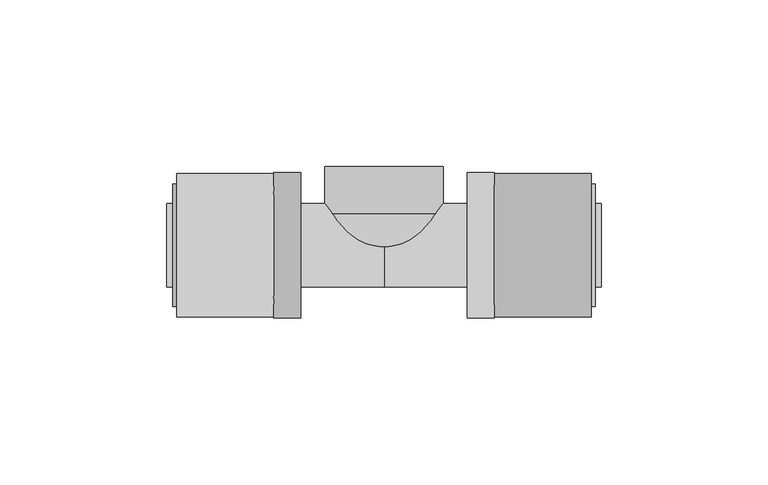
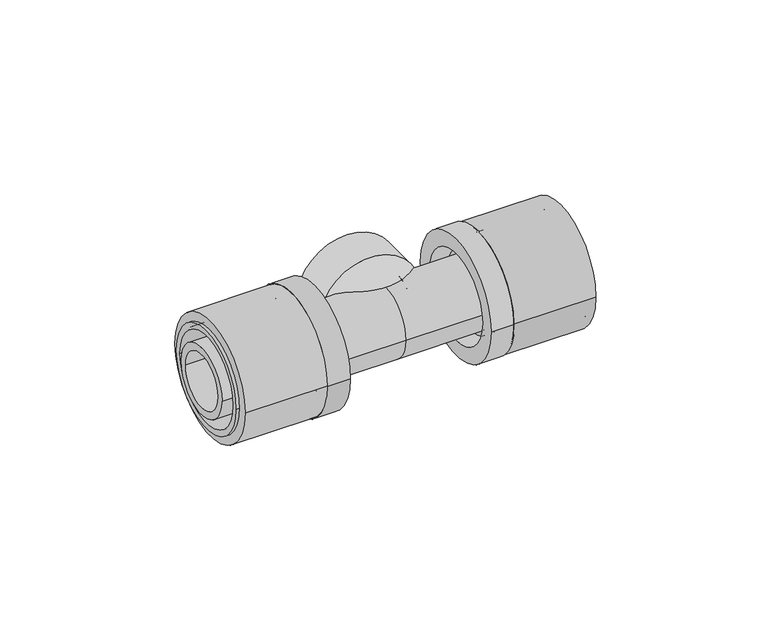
"""IFC4 building model written with IfcOpenShell, lengths in millimetres: pipe fitting geometry, FASTLOC_T-piece internal thread LX : FSL T thread LX CZ."""

from ifc_helpers import new_model, si_unit, point, frame, origin, origin_2d, place, context, project, spatial, polyline, circle_curve, ellipse_curve, trimmed, segment, composite_curve, outline, extrude, source, transform, mapped, element, save
from ifc_brep_helpers import plane_surface, cylinder_surface, revolved_surface, advanced_brep


def pipe_fitting_91740978(model_context):
    return source(origin(), model_context, "Body", "SolidModel", [
        extrude(outline(composite_curve([segment(trimmed(circle_curve(origin_2d(), 21.5), [point((-21.5, 0.0))], [point((21.5, 0.0))], False, "CARTESIAN"), True, "CONTINUOUS"), segment(trimmed(circle_curve(origin_2d(), 21.5), [point((21.5, 0.0))], [point((-21.5, 0.0))], False, "CARTESIAN"), True, "CONTINUOUS")], self_intersect=False), holes=[composite_curve([segment(trimmed(circle_curve(origin_2d(), 16.85), [point((-16.85, 0.0))], [point((16.85, 0.0))], True, "CARTESIAN"), True, "CONTINUOUS"), segment(trimmed(circle_curve(origin_2d(), 16.85), [point((16.85, 0.0))], [point((-16.85, 0.0))], True, "CARTESIAN"), True, "CONTINUOUS")], self_intersect=False)]), frame((33.0, 0.0, 0.0), z_axis=(1.0, 0.0, 0.0), x_axis=(0.0, 1.0, 0.0)), (0.0, 0.0, 1.0), 29.0),
        advanced_brep(
        [(33.0, 21.8, 0.0), (33.0, -21.8, 0.0), (25.0, -21.8, 0.0), (25.0, 21.8, 0.0), (63.3, 18.35, 0.0), (63.3, -18.35, 0.0), (33.0, -18.35, 0.0), (33.0, 18.35, 0.0), (25.0, 16.2, 0.0), (25.0, -16.2, 0.0), (63.3, -16.2, 0.0), (63.3, 16.2, 0.0)],
        [
            (0, 1, circle_curve(frame((33.0, 0.0, 0.0), z_axis=(-1.0, 0.0, 0.0), x_axis=(0.0, -1.0, 0.0)), 21.8)),
            (1, 2),
            (2, 3, circle_curve(frame((25.0, 0.0, 0.0), z_axis=(1.0, 0.0, 0.0), x_axis=(0.0, -1.0, 0.0)), 21.8)),
            (3, 0),
            (4, 5, circle_curve(frame((63.3, 0.0, 0.0), z_axis=(-1.0, 0.0, 0.0), x_axis=(0.0, -1.0, 0.0)), 18.35)),
            (5, 6),
            (6, 7, circle_curve(frame((33.0, 0.0, 0.0), z_axis=(1.0, 0.0, 0.0), x_axis=(0.0, -1.0, 0.0)), 18.35)),
            (7, 4),
            (8, 9, circle_curve(frame((25.0, 0.0, 0.0), z_axis=(-1.0, 0.0, 0.0), x_axis=(0.0, -1.0, 0.0)), 16.2)),
            (9, 10),
            (10, 11, circle_curve(frame((63.3, 0.0, 0.0), z_axis=(1.0, 0.0, 0.0), x_axis=(0.0, -1.0, 0.0)), 16.2)),
            (11, 8),
            (1, 0, circle_curve(frame((33.0, 0.0, 0.0), z_axis=(-1.0, 0.0, 0.0), x_axis=(0.0, 1.0, 0.0)), 21.8)),
            (3, 2, circle_curve(frame((25.0, 0.0, 0.0), z_axis=(1.0, 0.0, 0.0), x_axis=(0.0, 1.0, 0.0)), 21.8)),
            (6, 7, circle_curve(frame((33.0, 0.0, 0.0), z_axis=(-1.0, 0.0, 0.0), x_axis=(0.0, 1.0, 0.0)), 18.35)),
            (5, 4, circle_curve(frame((63.3, 0.0, 0.0), z_axis=(-1.0, 0.0, 0.0), x_axis=(0.0, 1.0, 0.0)), 18.35)),
            (10, 11, circle_curve(frame((63.3, 0.0, 0.0), z_axis=(-1.0, 0.0, 0.0), x_axis=(0.0, 1.0, 0.0)), 16.2)),
            (9, 8, circle_curve(frame((25.0, 0.0, 0.0), z_axis=(-1.0, 0.0, 0.0), x_axis=(0.0, 1.0, 0.0)), 16.2)),
        ],
        [
            cylinder_surface(frame((25.0, 0.0, 0.0), z_axis=(1.0, 0.0, 0.0), x_axis=(0.0, -1.0, 0.0)), 21.8),
            cylinder_surface(frame((25.0, 0.0, 0.0), z_axis=(1.0, 0.0, 0.0), x_axis=(0.0, -1.0, 0.0)), 18.35),
            revolved_surface(polyline([(63.3, -16.2, 0.0), (25.0, -16.2, 0.0)]), (25.0, 0.0, 0.0), (1.0, 0.0, 0.0)),
            cylinder_surface(frame((25.0, 0.0, 0.0), z_axis=(1.0, 0.0, 0.0), x_axis=(0.0, 1.0, 0.0)), 21.8),
            plane_surface(frame((33.0, 0.0, 0.0), z_axis=(1.0, 0.0, 0.0), x_axis=(0.0, 1.0, 0.0))),
            cylinder_surface(frame((25.0, 0.0, 0.0), z_axis=(1.0, 0.0, 0.0), x_axis=(0.0, 1.0, 0.0)), 18.35),
            plane_surface(frame((63.3, 0.0, 0.0), z_axis=(1.0, 0.0, 0.0), x_axis=(0.0, 1.0, 0.0))),
            revolved_surface(polyline([(63.3, 16.2, 0.0), (25.0, 16.2, 0.0)]), (25.0, 0.0, 0.0), (1.0, 0.0, 0.0)),
            plane_surface(frame((25.0, 0.0, 0.0), z_axis=(-1.0, 0.0, 0.0), x_axis=(0.0, 1.0, 0.0))),
        ],
        [
            (0, [[1, 2, 3, 4]]),
            (1, [[5, 6, 7, 8]]),
            (2, [[9, 10, 11, 12]]),
            (3, [[13, -4, 14, -2]]),
            (4, [[-13, -1], [15, -7]]),
            (5, [[16, -8, -15, -6]]),
            (6, [[-16, -5], [17, -11]]),
            (7, [[18, -12, -17, -10]]),
            (8, [[-14, -3], [-18, -9]]),
        ],
    ),
        extrude(outline(composite_curve([segment(trimmed(circle_curve(origin_2d(), 21.5), [point((21.5, 0.0))], [point((-21.5, 0.0))], False, "CARTESIAN"), True, "CONTINUOUS"), segment(trimmed(circle_curve(origin_2d(), 21.5), [point((-21.5, 0.0))], [point((21.5, 0.0))], False, "CARTESIAN"), True, "CONTINUOUS")], self_intersect=False), holes=[composite_curve([segment(trimmed(circle_curve(origin_2d(), 16.85), [point((16.85, 0.0))], [point((-16.85, 0.0))], True, "CARTESIAN"), True, "CONTINUOUS"), segment(trimmed(circle_curve(origin_2d(), 16.85), [point((-16.85, 0.0))], [point((16.85, 0.0))], True, "CARTESIAN"), True, "CONTINUOUS")], self_intersect=False)]), frame((-62.0, 0.0, 0.0), z_axis=(1.0, 0.0, 0.0), x_axis=(0.0, 1.0, 0.0)), (0.0, 0.0, 1.0), 29.0),
        advanced_brep(
        [(-33.0, -21.8, 0.0), (-33.0, 21.8, 0.0), (-25.0, 21.8, 0.0), (-25.0, -21.8, 0.0), (-63.3, -18.35, 0.0), (-63.3, 18.35, 0.0), (-33.0, 18.35, 0.0), (-33.0, -18.35, 0.0), (-25.0, -16.2, 0.0), (-25.0, 16.2, 0.0), (-63.3, 16.2, 0.0), (-63.3, -16.2, 0.0)],
        [
            (0, 1, circle_curve(frame((-33.0, 0.0, 0.0), z_axis=(1.0, 0.0, 0.0), x_axis=(0.0, 1.0, 0.0)), 21.8)),
            (1, 2),
            (2, 3, circle_curve(frame((-25.0, 0.0, 0.0), z_axis=(-1.0, 0.0, 0.0), x_axis=(0.0, 1.0, 0.0)), 21.8)),
            (3, 0),
            (4, 5, circle_curve(frame((-63.3, 0.0, 0.0), z_axis=(1.0, 0.0, 0.0), x_axis=(0.0, 1.0, 0.0)), 18.35)),
            (5, 6),
            (6, 7, circle_curve(frame((-33.0, 0.0, 0.0), z_axis=(-1.0, 0.0, 0.0), x_axis=(0.0, 1.0, 0.0)), 18.35)),
            (7, 4),
            (8, 9, circle_curve(frame((-25.0, 0.0, 0.0), z_axis=(1.0, 0.0, 0.0), x_axis=(0.0, 1.0, 0.0)), 16.2)),
            (9, 10),
            (10, 11, circle_curve(frame((-63.3, 0.0, 0.0), z_axis=(-1.0, 0.0, 0.0), x_axis=(0.0, 1.0, 0.0)), 16.2)),
            (11, 8),
            (1, 0, circle_curve(frame((-33.0, 0.0, 0.0), z_axis=(1.0, 0.0, 0.0), x_axis=(0.0, -1.0, 0.0)), 21.8)),
            (3, 2, circle_curve(frame((-25.0, 0.0, 0.0), z_axis=(-1.0, 0.0, 0.0), x_axis=(0.0, -1.0, 0.0)), 21.8)),
            (6, 7, circle_curve(frame((-33.0, 0.0, 0.0), z_axis=(1.0, 0.0, 0.0), x_axis=(0.0, -1.0, 0.0)), 18.35)),
            (5, 4, circle_curve(frame((-63.3, 0.0, 0.0), z_axis=(1.0, 0.0, 0.0), x_axis=(0.0, -1.0, 0.0)), 18.35)),
            (10, 11, circle_curve(frame((-63.3, 0.0, 0.0), z_axis=(1.0, 0.0, 0.0), x_axis=(0.0, -1.0, 0.0)), 16.2)),
            (9, 8, circle_curve(frame((-25.0, 0.0, 0.0), z_axis=(1.0, 0.0, 0.0), x_axis=(0.0, -1.0, 0.0)), 16.2)),
        ],
        [
            cylinder_surface(frame((-25.0, 0.0, 0.0), z_axis=(-1.0, 0.0, 0.0), x_axis=(0.0, 1.0, 0.0)), 21.8),
            cylinder_surface(frame((-25.0, 0.0, 0.0), z_axis=(-1.0, 0.0, 0.0), x_axis=(0.0, 1.0, 0.0)), 18.35),
            revolved_surface(polyline([(-63.3, 16.2, 0.0), (-25.0, 16.2, 0.0)]), (-25.0, 0.0, 0.0), (-1.0, 0.0, 0.0)),
            cylinder_surface(frame((-25.0, 0.0, 0.0), z_axis=(-1.0, 0.0, 0.0), x_axis=(0.0, -1.0, 0.0)), 21.8),
            plane_surface(frame((-33.0, 0.0, 0.0), z_axis=(-1.0, 0.0, 0.0), x_axis=(0.0, -1.0, 0.0))),
            cylinder_surface(frame((-25.0, 0.0, 0.0), z_axis=(-1.0, 0.0, 0.0), x_axis=(0.0, -1.0, 0.0)), 18.35),
            plane_surface(frame((-63.3, 0.0, 0.0), z_axis=(-1.0, 0.0, 0.0), x_axis=(0.0, -1.0, 0.0))),
            revolved_surface(polyline([(-63.3, -16.2, 0.0), (-25.0, -16.2, 0.0)]), (-25.0, 0.0, 0.0), (-1.0, 0.0, 0.0)),
            plane_surface(frame((-25.0, 0.0, 0.0), z_axis=(1.0, 0.0, 0.0), x_axis=(0.0, -1.0, 0.0))),
        ],
        [
            (0, [[1, 2, 3, 4]]),
            (1, [[5, 6, 7, 8]]),
            (2, [[9, 10, 11, 12]]),
            (3, [[13, -4, 14, -2]]),
            (4, [[-13, -1], [15, -7]]),
            (5, [[16, -8, -15, -6]]),
            (6, [[-16, -5], [17, -11]]),
            (7, [[18, -12, -17, -10]]),
            (8, [[-14, -3], [-18, -9]]),
        ],
    ),
        advanced_brep(
        [(33.0, 14.1, 0.0), (33.0, -14.1, 0.0), (30.0, -14.1, 0.0), (30.0, 14.1, 0.0), (65.0, 12.5, 0.0), (65.0, -12.5, 0.0), (33.0, -12.5, 0.0), (33.0, 12.5, 0.0), (-65.0, 9.85, 0.0), (-65.0, -9.85, 0.0), (65.0, -9.85, 0.0), (65.0, 9.85, 0.0), (-33.0, 12.5, 0.0), (-33.0, -12.5, 0.0), (-65.0, -12.5, 0.0), (-65.0, 12.5, 0.0), (-30.0, 14.1, 0.0), (-30.0, -14.1, 0.0), (-33.0, -14.1, 0.0), (-33.0, 14.1, 0.0), (0.0, 12.5, 0.0), (0.0, -12.5, 0.0), (-30.0, -12.5, 0.0), (-30.0, 12.5, 0.0), (30.0, 12.5, 0.0), (30.0, -12.5, 0.0)],
        [
            (0, 1, circle_curve(frame((33.0, 0.0, 0.0), z_axis=(-1.0, 0.0, 0.0), x_axis=(0.0, -1.0, 0.0)), 14.1)),
            (1, 2),
            (2, 3, circle_curve(frame((30.0, 0.0, 0.0), z_axis=(1.0, 0.0, 0.0), x_axis=(0.0, -1.0, 0.0)), 14.1)),
            (3, 0),
            (4, 5, circle_curve(frame((65.0, 0.0, 0.0), z_axis=(-1.0, 0.0, 0.0), x_axis=(0.0, -1.0, 0.0)), 12.5)),
            (5, 6),
            (6, 7, circle_curve(frame((33.0, 0.0, 0.0), z_axis=(1.0, 0.0, 0.0), x_axis=(0.0, -1.0, 0.0)), 12.5)),
            (7, 4),
            (8, 9, circle_curve(frame((-65.0, 0.0, 0.0), z_axis=(-1.0, 0.0, 0.0), x_axis=(0.0, -1.0, 0.0)), 9.85)),
            (9, 10),
            (10, 11, circle_curve(frame((65.0, 0.0, 0.0), z_axis=(1.0, 0.0, 0.0), x_axis=(0.0, -1.0, 0.0)), 9.85)),
            (11, 8),
            (12, 13, circle_curve(frame((-33.0, 0.0, 0.0), z_axis=(-1.0, 0.0, 0.0), x_axis=(0.0, -1.0, 0.0)), 12.5)),
            (13, 14),
            (14, 15, circle_curve(frame((-65.0, 0.0, 0.0), z_axis=(1.0, 0.0, 0.0), x_axis=(0.0, -1.0, 0.0)), 12.5)),
            (15, 12),
            (16, 17, circle_curve(frame((-30.0, 0.0, 0.0), z_axis=(-1.0, 0.0, 0.0), x_axis=(0.0, -1.0, 0.0)), 14.1)),
            (17, 18),
            (18, 19, circle_curve(frame((-33.0, 0.0, 0.0), z_axis=(1.0, 0.0, 0.0), x_axis=(0.0, -1.0, 0.0)), 14.1)),
            (19, 16),
            (20, 21, circle_curve(frame((0.0, 0.0, 0.0), z_axis=(-1.0, 0.0, 0.0), x_axis=(0.0, -1.0, 0.0)), 12.5)),
            (21, 22),
            (22, 23, circle_curve(frame((-30.0, 0.0, 0.0), z_axis=(1.0, 0.0, 0.0), x_axis=(0.0, -1.0, 0.0)), 12.5)),
            (23, 20),
            (24, 25, circle_curve(frame((30.0, 0.0, 0.0), z_axis=(-1.0, 0.0, 0.0), x_axis=(0.0, -1.0, 0.0)), 12.5)),
            (25, 21),
            (20, 24),
            (1, 0, circle_curve(frame((33.0, 0.0, 0.0), z_axis=(-1.0, 0.0, 0.0), x_axis=(0.0, 1.0, 0.0)), 14.1)),
            (3, 2, circle_curve(frame((30.0, 0.0, 0.0), z_axis=(1.0, 0.0, 0.0), x_axis=(0.0, 1.0, 0.0)), 14.1)),
            (6, 7, circle_curve(frame((33.0, 0.0, 0.0), z_axis=(-1.0, 0.0, 0.0), x_axis=(0.0, 1.0, 0.0)), 12.5)),
            (5, 4, circle_curve(frame((65.0, 0.0, 0.0), z_axis=(-1.0, 0.0, 0.0), x_axis=(0.0, 1.0, 0.0)), 12.5)),
            (10, 11, circle_curve(frame((65.0, 0.0, 0.0), z_axis=(-1.0, 0.0, 0.0), x_axis=(0.0, 1.0, 0.0)), 9.85)),
            (9, 8, circle_curve(frame((-65.0, 0.0, 0.0), z_axis=(-1.0, 0.0, 0.0), x_axis=(0.0, 1.0, 0.0)), 9.85)),
            (14, 15, circle_curve(frame((-65.0, 0.0, 0.0), z_axis=(-1.0, 0.0, 0.0), x_axis=(0.0, 1.0, 0.0)), 12.5)),
            (13, 12, circle_curve(frame((-33.0, 0.0, 0.0), z_axis=(-1.0, 0.0, 0.0), x_axis=(0.0, 1.0, 0.0)), 12.5)),
            (18, 19, circle_curve(frame((-33.0, 0.0, 0.0), z_axis=(-1.0, 0.0, 0.0), x_axis=(0.0, 1.0, 0.0)), 14.1)),
            (17, 16, circle_curve(frame((-30.0, 0.0, 0.0), z_axis=(-1.0, 0.0, 0.0), x_axis=(0.0, 1.0, 0.0)), 14.1)),
            (22, 23, circle_curve(frame((-30.0, 0.0, 0.0), z_axis=(-1.0, 0.0, 0.0), x_axis=(0.0, 1.0, 0.0)), 12.5)),
            (21, 20, circle_curve(frame((0.0, 0.0, 0.0), z_axis=(-1.0, 0.0, 0.0), x_axis=(0.0, 1.0, 0.0)), 12.5)),
            (25, 24, circle_curve(frame((30.0, 0.0, 0.0), z_axis=(-1.0, 0.0, 0.0), x_axis=(0.0, 1.0, 0.0)), 12.5)),
        ],
        [
            cylinder_surface(frame((0.0, 0.0, 0.0), z_axis=(1.0, 0.0, 0.0), x_axis=(0.0, -1.0, 0.0)), 14.1),
            cylinder_surface(frame((0.0, 0.0, 0.0), z_axis=(1.0, 0.0, 0.0), x_axis=(0.0, -1.0, 0.0)), 12.5),
            revolved_surface(polyline([(65.0, -9.85, 0.0), (-65.0, -9.85, 0.0)]), (0.0, 0.0, 0.0), (1.0, 0.0, 0.0)),
            cylinder_surface(frame((0.0, 0.0, 0.0), z_axis=(1.0, 0.0, 0.0), x_axis=(0.0, 1.0, 0.0)), 14.1),
            plane_surface(frame((33.0, 0.0, 0.0), z_axis=(1.0, 0.0, 0.0), x_axis=(0.0, 1.0, 0.0))),
            cylinder_surface(frame((0.0, 0.0, 0.0), z_axis=(1.0, 0.0, 0.0), x_axis=(0.0, 1.0, 0.0)), 12.5),
            plane_surface(frame((65.0, 0.0, 0.0), z_axis=(1.0, 0.0, 0.0), x_axis=(0.0, 1.0, 0.0))),
            revolved_surface(polyline([(65.0, 9.85, 0.0), (-65.0, 9.85, 0.0)]), (0.0, 0.0, 0.0), (1.0, 0.0, 0.0)),
            plane_surface(frame((-65.0, 0.0, 0.0), z_axis=(-1.0, 0.0, 0.0), x_axis=(0.0, 1.0, 0.0))),
            plane_surface(frame((-33.0, 0.0, 0.0), z_axis=(-1.0, 0.0, 0.0), x_axis=(0.0, 1.0, 0.0))),
            plane_surface(frame((-30.0, 0.0, 0.0), z_axis=(1.0, 0.0, 0.0), x_axis=(0.0, 1.0, 0.0))),
            plane_surface(frame((30.0, 0.0, 0.0), z_axis=(-1.0, 0.0, 0.0), x_axis=(0.0, 1.0, 0.0))),
        ],
        [
            (0, [[1, 2, 3, 4]]),
            (1, [[5, 6, 7, 8]]),
            (2, [[9, 10, 11, 12]]),
            (1, [[13, 14, 15, 16]]),
            (0, [[17, 18, 19, 20]]),
            (1, [[21, 22, 23, 24]]),
            (1, [[25, 26, -21, 27]]),
            (3, [[28, -4, 29, -2]]),
            (4, [[-28, -1], [30, -7]]),
            (5, [[31, -8, -30, -6]]),
            (6, [[-31, -5], [32, -11]]),
            (7, [[33, -12, -32, -10]]),
            (8, [[34, -15], [-33, -9]]),
            (5, [[35, -16, -34, -14]]),
            (9, [[36, -19], [-35, -13]]),
            (3, [[37, -20, -36, -18]]),
            (10, [[-37, -17], [38, -23]]),
            (5, [[39, -24, -38, -22]]),
            (5, [[40, -27, -39, -26]]),
            (11, [[-29, -3], [-40, -25]]),
        ],
    ),
        advanced_brep(
        [(5.5, -3.3401923, 0.0), (-5.5, -3.3401923, 0.0), (-17.75, 9.4, 0.0), (17.75, 9.4, 0.0), (5.5, 1.9166852, 0.0), (-5.5, 1.9166852, 0.0), (12.5, 9.4, 0.0), (-12.5, 9.4, 0.0), (12.5, 23.5, 0.0), (-12.5, 23.5, 0.0), (-17.75, 23.5, 0.0), (17.75, 23.5, 0.0)],
        [
            (0, 1, circle_curve(frame((0.0, -3.3401923, 0.0), z_axis=(0.0, 1.0, 0.0), x_axis=(-1.0, 0.0, 0.0)), 5.5)),
            (1, 2, circle_curve(frame((-5.0, 9.4, 0.0), z_axis=(0.0, 0.0, -1.0), x_axis=(0.0, 1.0, 0.0)), 12.75)),
            (2, 3, circle_curve(frame((0.0, 9.4, 0.0), z_axis=(0.0, -1.0, 0.0), x_axis=(-1.0, 0.0, 0.0)), 17.75)),
            (3, 0, circle_curve(frame((5.0, 9.4, 0.0), z_axis=(0.0, 0.0, -1.0), x_axis=(0.0, 1.0, 0.0)), 12.75)),
            (4, 5, circle_curve(frame((0.0, 1.9166852, 0.0), z_axis=(0.0, 1.0, 0.0), x_axis=(-1.0, 0.0, 0.0)), 5.5)),
            (5, 1),
            (0, 4),
            (6, 7, circle_curve(frame((0.0, 9.4, 0.0), z_axis=(0.0, 1.0, 0.0), x_axis=(-1.0, 0.0, 0.0)), 12.5)),
            (7, 5, circle_curve(frame((-5.0, 9.4, 0.0), z_axis=(0.0, 0.0, 1.0), x_axis=(0.0, 1.0, 0.0)), 7.5)),
            (4, 6, circle_curve(frame((5.0, 9.4, 0.0), z_axis=(0.0, 0.0, 1.0), x_axis=(0.0, 1.0, 0.0)), 7.5)),
            (8, 9, circle_curve(frame((0.0, 23.5, 0.0), z_axis=(0.0, 1.0, 0.0), x_axis=(-1.0, 0.0, 0.0)), 12.5)),
            (9, 7),
            (6, 8),
            (2, 10),
            (10, 11, circle_curve(frame((0.0, 23.5, 0.0), z_axis=(0.0, -1.0, 0.0), x_axis=(-1.0, 0.0, 0.0)), 17.75)),
            (11, 3),
            (1, 0, circle_curve(frame((0.0, -3.3401923, 0.0), z_axis=(0.0, 1.0, 0.0), x_axis=(1.0, 0.0, 0.0)), 5.5)),
            (3, 2, circle_curve(frame((0.0, 9.4, 0.0), z_axis=(0.0, -1.0, 0.0), x_axis=(1.0, 0.0, 0.0)), 17.75)),
            (5, 4, circle_curve(frame((0.0, 1.9166852, 0.0), z_axis=(0.0, 1.0, 0.0), x_axis=(1.0, 0.0, 0.0)), 5.5)),
            (7, 6, circle_curve(frame((0.0, 9.4, 0.0), z_axis=(0.0, 1.0, 0.0), x_axis=(1.0, 0.0, 0.0)), 12.5)),
            (9, 8, circle_curve(frame((0.0, 23.5, 0.0), z_axis=(0.0, 1.0, 0.0), x_axis=(1.0, 0.0, 0.0)), 12.5)),
            (10, 11, circle_curve(frame((0.0, 23.5, 0.0), z_axis=(0.0, 1.0, 0.0), x_axis=(1.0, 0.0, 0.0)), 17.75)),
        ],
        [
            revolved_surface(trimmed(ellipse_curve(frame((-5.0, 9.4, 0.0), z_axis=(0.0, 0.0, 1.0), x_axis=(0.0, 1.0, 0.0)), 12.75, 12.75), [point((-17.75, 9.4, 0.0))], [point((-5.5, -3.3401923, 0.0))], True, "CARTESIAN"), (0.0, 0.0, 0.0), (0.0, -1.0, 0.0)),
            revolved_surface(polyline([(-5.5, -3.3401923, 0.0), (-5.5, 1.9166852, 0.0)]), (0.0, 0.0, 0.0), (0.0, -1.0, 0.0)),
            revolved_surface(trimmed(ellipse_curve(frame((-5.0, 9.4, 0.0), z_axis=(0.0, 0.0, -1.0), x_axis=(0.0, 1.0, 0.0)), 7.5, 7.5), [point((-5.5, 1.9166852, 0.0))], [point((-12.5, 9.4, 0.0))], True, "CARTESIAN"), (0.0, 0.0, 0.0), (0.0, -1.0, 0.0)),
            revolved_surface(polyline([(-12.5, 9.4, 0.0), (-12.5, 23.5, 0.0)]), (0.0, 0.0, 0.0), (0.0, -1.0, 0.0)),
            cylinder_surface(frame((0.0, 0.0, 0.0), z_axis=(0.0, -1.0, 0.0), x_axis=(-1.0, 0.0, 0.0)), 17.75),
            revolved_surface(trimmed(ellipse_curve(frame((5.0, 9.4, 0.0), z_axis=(0.0, 0.0, -1.0), x_axis=(0.0, 1.0, 0.0)), 12.75, 12.75), [point((17.75, 9.4, 0.0))], [point((5.5, -3.3401923, 0.0))], True, "CARTESIAN"), (0.0, 0.0, 0.0), (0.0, -1.0, 0.0)),
            revolved_surface(polyline([(5.5, -3.3401923, 0.0), (5.5, 1.9166852, 0.0)]), (0.0, 0.0, 0.0), (0.0, -1.0, 0.0)),
            revolved_surface(trimmed(ellipse_curve(frame((5.0, 9.4, 0.0), z_axis=(0.0, 0.0, 1.0), x_axis=(0.0, 1.0, 0.0)), 7.5, 7.5), [point((5.5, 1.9166852, 0.0))], [point((12.5, 9.4, 0.0))], True, "CARTESIAN"), (0.0, 0.0, 0.0), (0.0, -1.0, 0.0)),
            revolved_surface(polyline([(12.5, 9.4, 0.0), (12.5, 23.5, 0.0)]), (0.0, 0.0, 0.0), (0.0, -1.0, 0.0)),
            plane_surface(frame((0.0, 23.5, 0.0), z_axis=(0.0, 1.0, 0.0), x_axis=(1.0, 0.0, 0.0))),
            cylinder_surface(frame((0.0, 0.0, 0.0), z_axis=(0.0, -1.0, 0.0), x_axis=(1.0, 0.0, 0.0)), 17.75),
        ],
        [
            (0, [[1, 2, 3, 4]]),
            (1, [[5, 6, -1, 7]]),
            (2, [[8, 9, -5, 10]]),
            (3, [[11, 12, -8, 13]]),
            (4, [[-3, 14, 15, 16]]),
            (5, [[17, -4, 18, -2]]),
            (6, [[19, -7, -17, -6]]),
            (7, [[20, -10, -19, -9]]),
            (8, [[21, -13, -20, -12]]),
            (9, [[22, -15], [-21, -11]]),
            (10, [[-18, -16, -22, -14]]),
        ],
    ),
    ])


if __name__ == "__main__":
    model = new_model("IFC4")
    model_context = context("Model", 3, world=origin())
    ifc_project = project(units=[si_unit("LENGTHUNIT", "METRE", prefix="MILLI")], contexts=[model_context])
    site = spatial("IfcSite", under=ifc_project)
    building = spatial("IfcBuilding", under=site)
    placement = place(None, origin())
    pipe_fitting_shape = pipe_fitting_91740978(model_context)
    element("IfcPipeFitting", 1, ObjectType="FASTLOC_T-piece internal thread LX : FSL T thread LX CZ", at=placement, inside=building, context=model_context, shape_type="MappedRepresentation", body=[
        mapped(pipe_fitting_shape, transform((0.0, 0.0, 0.0), x_axis=(1.0, 0.0, 0.0), y_axis=(0.0, 1.0, 0.0), z_axis=(0.0, 0.0, 1.0))),
    ])
    save(model, "model.ifc")
